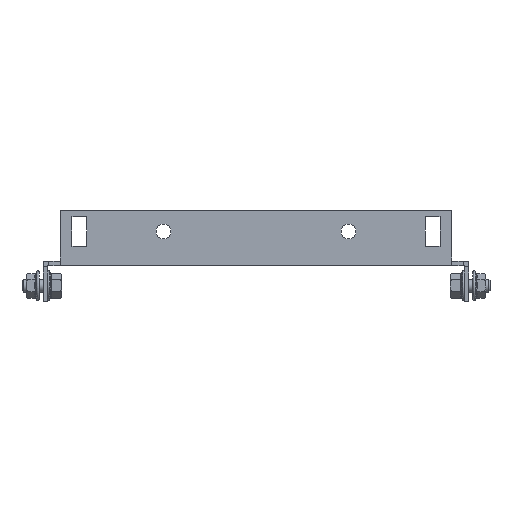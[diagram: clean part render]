
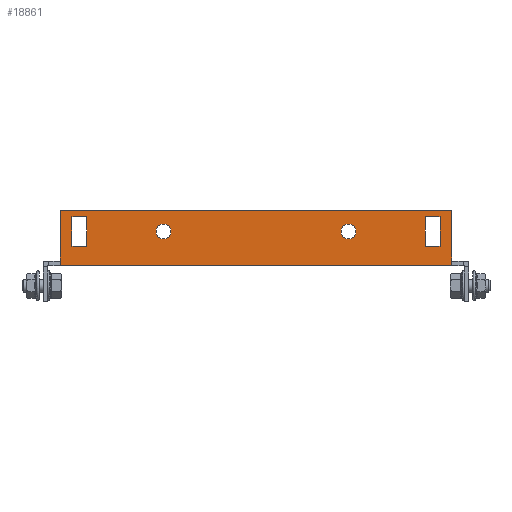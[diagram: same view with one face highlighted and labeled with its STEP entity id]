
A CAD part, front view. The second image highlights one B-rep face of the part: STEP entity #18861.
In plain terms, the highlighted planar face has unit normal (0, -1, 0).
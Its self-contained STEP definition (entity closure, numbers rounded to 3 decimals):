
#16726 = VERTEX_POINT('',#16727);
#16727 = CARTESIAN_POINT('',(92.,-234.5,0.));
#16733 = EDGE_CURVE('',#16734,#16726,#16736,.T.);
#16734 = VERTEX_POINT('',#16735);
#16735 = CARTESIAN_POINT('',(-92.,-234.5,0.));
#16736 = LINE('',#16737,#16738);
#16737 = CARTESIAN_POINT('',(-92.,-234.5,0.));
#16738 = VECTOR('',#16739,1.);
#16739 = DIRECTION('',(1.,-0.,-0.));
#18740 = VERTEX_POINT('',#18741);
#18741 = CARTESIAN_POINT('',(-92.,-234.5,2.6));
#18756 = EDGE_CURVE('',#18740,#16734,#18757,.T.);
#18757 = LINE('',#18758,#18759);
#18758 = CARTESIAN_POINT('',(-92.,-234.5,2.6));
#18759 = VECTOR('',#18760,1.);
#18760 = DIRECTION('',(0.,0.,-1.));
#18780 = VERTEX_POINT('',#18781);
#18781 = CARTESIAN_POINT('',(92.,-234.5,2.6));
#18787 = EDGE_CURVE('',#18780,#16726,#18788,.T.);
#18788 = LINE('',#18789,#18790);
#18789 = CARTESIAN_POINT('',(92.,-234.5,2.));
#18790 = VECTOR('',#18791,1.);
#18791 = DIRECTION('',(-0.,0.,-1.));
#18813 = VERTEX_POINT('',#18814);
#18814 = CARTESIAN_POINT('',(92.,-234.5,26.));
#18820 = EDGE_CURVE('',#18780,#18813,#18821,.T.);
#18821 = LINE('',#18822,#18823);
#18822 = CARTESIAN_POINT('',(92.,-234.5,26.));
#18823 = VECTOR('',#18824,1.);
#18824 = DIRECTION('',(0.,0.,1.));
#18835 = EDGE_CURVE('',#18836,#18740,#18838,.T.);
#18836 = VERTEX_POINT('',#18837);
#18837 = CARTESIAN_POINT('',(-92.,-234.5,26.));
#18838 = LINE('',#18839,#18840);
#18839 = CARTESIAN_POINT('',(-92.,-234.5,2.));
#18840 = VECTOR('',#18841,1.);
#18841 = DIRECTION('',(0.,0.,-1.));
#18861 = ADVANCED_FACE('',(#18862,#18896,#18907,#18918,#18952),#18965,
  .F.);
#18862 = FACE_BOUND('',#18863,.T.);
#18863 = EDGE_LOOP('',(#18864,#18874,#18882,#18890));
#18864 = ORIENTED_EDGE('',*,*,#18865,.F.);
#18865 = EDGE_CURVE('',#18866,#18868,#18870,.T.);
#18866 = VERTEX_POINT('',#18867);
#18867 = CARTESIAN_POINT('',(86.5,-234.5,9.));
#18868 = VERTEX_POINT('',#18869);
#18869 = CARTESIAN_POINT('',(86.5,-234.5,23.));
#18870 = LINE('',#18871,#18872);
#18871 = CARTESIAN_POINT('',(86.5,-234.5,23.));
#18872 = VECTOR('',#18873,1.);
#18873 = DIRECTION('',(-0.,0.,1.));
#18874 = ORIENTED_EDGE('',*,*,#18875,.F.);
#18875 = EDGE_CURVE('',#18876,#18866,#18878,.T.);
#18876 = VERTEX_POINT('',#18877);
#18877 = CARTESIAN_POINT('',(79.5,-234.5,9.));
#18878 = LINE('',#18879,#18880);
#18879 = CARTESIAN_POINT('',(86.5,-234.5,9.));
#18880 = VECTOR('',#18881,1.);
#18881 = DIRECTION('',(1.,-0.,-0.));
#18882 = ORIENTED_EDGE('',*,*,#18883,.F.);
#18883 = EDGE_CURVE('',#18884,#18876,#18886,.T.);
#18884 = VERTEX_POINT('',#18885);
#18885 = CARTESIAN_POINT('',(79.5,-234.5,23.));
#18886 = LINE('',#18887,#18888);
#18887 = CARTESIAN_POINT('',(79.5,-234.5,9.));
#18888 = VECTOR('',#18889,1.);
#18889 = DIRECTION('',(-0.,0.,-1.));
#18890 = ORIENTED_EDGE('',*,*,#18891,.F.);
#18891 = EDGE_CURVE('',#18868,#18884,#18892,.T.);
#18892 = LINE('',#18893,#18894);
#18893 = CARTESIAN_POINT('',(79.5,-234.5,23.));
#18894 = VECTOR('',#18895,1.);
#18895 = DIRECTION('',(-1.,-0.,-0.));
#18896 = FACE_BOUND('',#18897,.T.);
#18897 = EDGE_LOOP('',(#18898));
#18898 = ORIENTED_EDGE('',*,*,#18899,.F.);
#18899 = EDGE_CURVE('',#18900,#18900,#18902,.T.);
#18900 = VERTEX_POINT('',#18901);
#18901 = CARTESIAN_POINT('',(43.5,-234.5,19.5));
#18902 = CIRCLE('',#18903,3.5);
#18903 = AXIS2_PLACEMENT_3D('',#18904,#18905,#18906);
#18904 = CARTESIAN_POINT('',(43.5,-234.5,16.));
#18905 = DIRECTION('',(0.,-1.,0.));
#18906 = DIRECTION('',(0.,0.,1.));
#18907 = FACE_BOUND('',#18908,.T.);
#18908 = EDGE_LOOP('',(#18909));
#18909 = ORIENTED_EDGE('',*,*,#18910,.F.);
#18910 = EDGE_CURVE('',#18911,#18911,#18913,.T.);
#18911 = VERTEX_POINT('',#18912);
#18912 = CARTESIAN_POINT('',(-43.5,-234.5,12.5));
#18913 = CIRCLE('',#18914,3.5);
#18914 = AXIS2_PLACEMENT_3D('',#18915,#18916,#18917);
#18915 = CARTESIAN_POINT('',(-43.5,-234.5,16.));
#18916 = DIRECTION('',(0.,-1.,0.));
#18917 = DIRECTION('',(0.,0.,-1.));
#18918 = FACE_BOUND('',#18919,.T.);
#18919 = EDGE_LOOP('',(#18920,#18930,#18938,#18946));
#18920 = ORIENTED_EDGE('',*,*,#18921,.F.);
#18921 = EDGE_CURVE('',#18922,#18924,#18926,.T.);
#18922 = VERTEX_POINT('',#18923);
#18923 = CARTESIAN_POINT('',(-86.5,-234.5,23.));
#18924 = VERTEX_POINT('',#18925);
#18925 = CARTESIAN_POINT('',(-86.5,-234.5,9.));
#18926 = LINE('',#18927,#18928);
#18927 = CARTESIAN_POINT('',(-86.5,-234.5,9.));
#18928 = VECTOR('',#18929,1.);
#18929 = DIRECTION('',(-0.,0.,-1.));
#18930 = ORIENTED_EDGE('',*,*,#18931,.F.);
#18931 = EDGE_CURVE('',#18932,#18922,#18934,.T.);
#18932 = VERTEX_POINT('',#18933);
#18933 = CARTESIAN_POINT('',(-79.5,-234.5,23.));
#18934 = LINE('',#18935,#18936);
#18935 = CARTESIAN_POINT('',(-86.5,-234.5,23.));
#18936 = VECTOR('',#18937,1.);
#18937 = DIRECTION('',(-1.,-0.,-0.));
#18938 = ORIENTED_EDGE('',*,*,#18939,.F.);
#18939 = EDGE_CURVE('',#18940,#18932,#18942,.T.);
#18940 = VERTEX_POINT('',#18941);
#18941 = CARTESIAN_POINT('',(-79.5,-234.5,9.));
#18942 = LINE('',#18943,#18944);
#18943 = CARTESIAN_POINT('',(-79.5,-234.5,23.));
#18944 = VECTOR('',#18945,1.);
#18945 = DIRECTION('',(-0.,0.,1.));
#18946 = ORIENTED_EDGE('',*,*,#18947,.F.);
#18947 = EDGE_CURVE('',#18924,#18940,#18948,.T.);
#18948 = LINE('',#18949,#18950);
#18949 = CARTESIAN_POINT('',(-79.5,-234.5,9.));
#18950 = VECTOR('',#18951,1.);
#18951 = DIRECTION('',(1.,-0.,-0.));
#18952 = FACE_BOUND('',#18953,.T.);
#18953 = EDGE_LOOP('',(#18954,#18955,#18956,#18957,#18958,#18959));
#18954 = ORIENTED_EDGE('',*,*,#18835,.T.);
#18955 = ORIENTED_EDGE('',*,*,#18756,.T.);
#18956 = ORIENTED_EDGE('',*,*,#16733,.T.);
#18957 = ORIENTED_EDGE('',*,*,#18787,.F.);
#18958 = ORIENTED_EDGE('',*,*,#18820,.T.);
#18959 = ORIENTED_EDGE('',*,*,#18960,.T.);
#18960 = EDGE_CURVE('',#18813,#18836,#18961,.T.);
#18961 = LINE('',#18962,#18963);
#18962 = CARTESIAN_POINT('',(-92.,-234.5,26.));
#18963 = VECTOR('',#18964,1.);
#18964 = DIRECTION('',(-1.,-0.,-0.));
#18965 = PLANE('',#18966);
#18966 = AXIS2_PLACEMENT_3D('',#18967,#18968,#18969);
#18967 = CARTESIAN_POINT('',(92.,-234.5,2.));
#18968 = DIRECTION('',(-0.,1.,0.));
#18969 = DIRECTION('',(0.,0.,1.));
